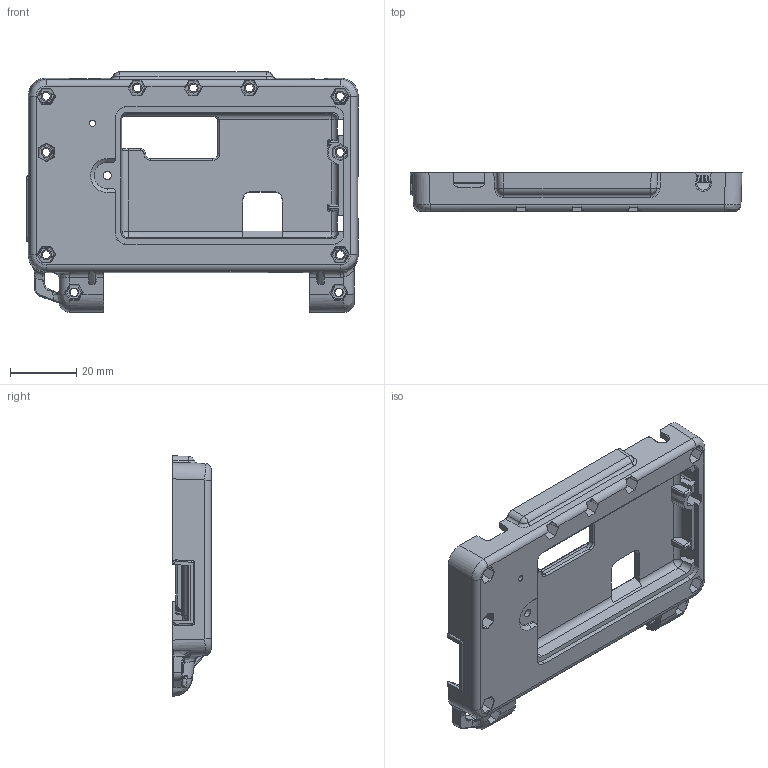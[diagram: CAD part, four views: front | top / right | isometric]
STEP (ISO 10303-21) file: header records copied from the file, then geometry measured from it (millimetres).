
FILE_DESCRIPTION(/* description */ (''),/* implementation_level */ '2;1');
FILE_NAME(/* name */ 'bottomFrame.step',/* time_stamp */ '2026-07-05T12:17:03-07:00',/* author */ (''),/* organization */ (''),/* preprocessor_version */ 'ST-DEVELOPER v20.1',/* originating_system */ 'Autodesk Translation Framework v15.8.0.0',/* authorisation */ '');
FILE_SCHEMA (('AUTOMOTIVE_DESIGN { 1 0 10303 214 3 1 1 }'));
Products named in the file (1): bottomFrame
Bounding box: 100.55 x 11.7 x 72.82 mm (x, y, z)
Volume: 22425.8 mm3; surface area: 22696 mm2
Topology: 1 solids, 1 shells, 1553 faces, 3992 edges, 2388 vertices
Faces by surface type: cylinder 582, plane 413, bspline 395, sphere 77, cone 49, torus 37
Full cylindrical faces by diameter (mm): 1.837 x1
Entity records: 57652 total; most frequent: CARTESIAN_POINT 21732, ORIENTED_EDGE 7872, DIRECTION 7108, EDGE_CURVE 3936, AXIS2_PLACEMENT_3D 2727, VERTEX_POINT 2388, LINE 1654, VECTOR 1654
